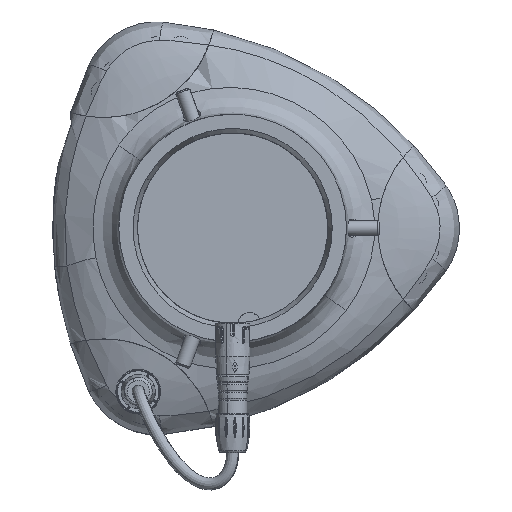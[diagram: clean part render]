
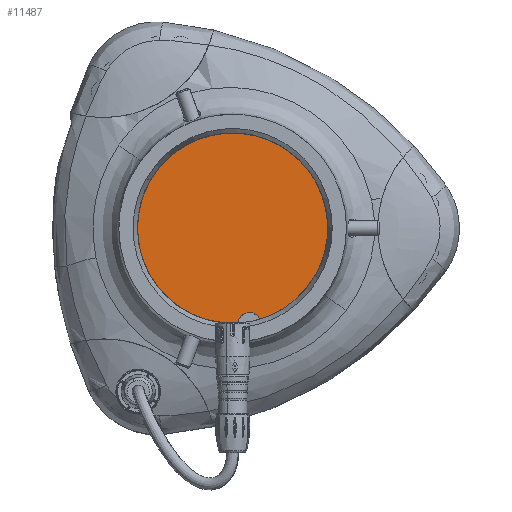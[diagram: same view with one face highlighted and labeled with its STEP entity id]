
A CAD part, top view. The second image highlights one B-rep face of the part: STEP entity #11487.
In plain terms, the highlighted planar face has unit normal (0, 0, 1).
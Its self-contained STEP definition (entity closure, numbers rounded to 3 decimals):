
#22 = ORIENTED_EDGE ( 'NONE', *, *, #37955, .F. ) ;
#396 = EDGE_CURVE ( 'NONE', #29551, #43400, #27626, .T. ) ;
#2772 = CARTESIAN_POINT ( 'NONE',  ( 31.75, -8.507, -18.1 ) ) ;
#3198 = CARTESIAN_POINT ( 'NONE',  ( -31.75, -31.75, -18.1 ) ) ;
#3663 = DIRECTION ( 'NONE',  ( 0., 0., 1. ) ) ;
#4185 = CARTESIAN_POINT ( 'NONE',  ( 2.353, -30.106, -18.1 ) ) ;
#10159 = EDGE_CURVE ( 'NONE', #33607, #29551, #52560, .T. ) ;
#11487 = ADVANCED_FACE ( 'NONE', ( #31766 ), #25936, .T. ) ;
#12892 = CARTESIAN_POINT ( 'NONE',  ( -18.331, 31.75, -18.1 ) ) ;
#13125 = EDGE_CURVE ( 'NONE', #64374, #33607, #26954, .T. ) ;
#13641 = CARTESIAN_POINT ( 'NONE',  ( 2.353, -30.106, -18.1 ) ) ;
#14140 = CARTESIAN_POINT ( 'NONE',  ( 31.75, 31.75, -18.1 ) ) ;
#14829 = CARTESIAN_POINT ( 'NONE',  ( -31.75, 0., -18.1 ) ) ;
#15113 = ORIENTED_EDGE ( 'NONE', *, *, #13125, .F. ) ;
#16049 = CARTESIAN_POINT ( 'NONE',  ( 9.096, -30.419, -18.1 ) ) ;
#18134 = CARTESIAN_POINT ( 'NONE',  ( 1.926, -30.845, -18.1 ) ) ;
#20690 = CARTESIAN_POINT ( 'NONE',  ( -27.496, 15.875, -18.1 ) ) ;
#21190 = CARTESIAN_POINT ( 'NONE',  ( 21.187, -26.804, -18.1 ) ) ;
#24850 =( BOUNDED_CURVE ( )  B_SPLINE_CURVE ( 2, ( #46933, #18134, #30248 ),
 .UNSPECIFIED., .F., .F. ) 
 B_SPLINE_CURVE_WITH_KNOTS ( ( 3, 3 ),
 ( 0., 1. ),
 .UNSPECIFIED. ) 
 CURVE ( )  GEOMETRIC_REPRESENTATION_ITEM ( )  RATIONAL_B_SPLINE_CURVE ( ( 0.868, 0.895, 0.969 ) ) 
 REPRESENTATION_ITEM ( '' )  );
#25774 = CARTESIAN_POINT ( 'NONE',  ( 27.496, -15.875, -18.1 ) ) ;
#25933 = CARTESIAN_POINT ( 'NONE',  ( 5.644, -28.206, -18.1 ) ) ;
#25936 = PLANE ( 'NONE',  #63977 ) ;
#26954 =( BOUNDED_CURVE ( )  B_SPLINE_CURVE ( 2, ( #39887, #45702, #37879, #3198, #14829, #49460, #20690 ),
 .UNSPECIFIED., .F., .F. ) 
 B_SPLINE_CURVE_WITH_KNOTS ( ( 3, 2, 2, 3 ),
 ( 0., 0.03, 0.753, 1. ),
 .UNSPECIFIED. ) 
 CURVE ( )  GEOMETRIC_REPRESENTATION_ITEM ( )  RATIONAL_B_SPLINE_CURVE ( ( 0.977, 0.988, 1., 0.707, 1., 0.9, 0.868 ) ) 
 REPRESENTATION_ITEM ( '' )  );
#27626 =( BOUNDED_CURVE ( )  B_SPLINE_CURVE ( 2, ( #53880, #21190, #63036 ),
 .UNSPECIFIED., .F., .F. ) 
 B_SPLINE_CURVE_WITH_KNOTS ( ( 3, 3 ),
 ( 0., 1. ),
 .UNSPECIFIED. ) 
 CURVE ( )  GEOMETRIC_REPRESENTATION_ITEM ( )  RATIONAL_B_SPLINE_CURVE ( ( 0.868, 0.825, 0.908 ) ) 
 REPRESENTATION_ITEM ( '' )  );
#29551 = VERTEX_POINT ( 'NONE', #56241 ) ;
#30248 = CARTESIAN_POINT ( 'NONE',  ( 1.856, -31.696, -18.1 ) ) ;
#31766 = FACE_OUTER_BOUND ( 'NONE', #64567, .T. ) ;
#32493 = DIRECTION ( 'NONE',  ( 1., 0., 0. ) ) ;
#33538 = ORIENTED_EDGE ( 'NONE', *, *, #54625, .F. ) ;
#33607 = VERTEX_POINT ( 'NONE', #66991 ) ;
#37879 = CARTESIAN_POINT ( 'NONE',  ( 0., -31.75, -18.1 ) ) ;
#37955 = EDGE_CURVE ( 'NONE', #43400, #49477, #48114, .T. ) ;
#39887 = CARTESIAN_POINT ( 'NONE',  ( 1.856, -31.696, -18.1 ) ) ;
#43400 = VERTEX_POINT ( 'NONE', #16049 ) ;
#44047 = ORIENTED_EDGE ( 'NONE', *, *, #396, .F. ) ;
#45702 = CARTESIAN_POINT ( 'NONE',  ( 0.929, -31.75, -18.1 ) ) ;
#46933 = CARTESIAN_POINT ( 'NONE',  ( 2.353, -30.106, -18.1 ) ) ;
#48114 =( BOUNDED_CURVE ( )  B_SPLINE_CURVE ( 2, ( #68073, #50923, #25933, #62273, #4185 ),
 .UNSPECIFIED., .F., .F. ) 
 B_SPLINE_CURVE_WITH_KNOTS ( ( 3, 2, 3 ),
 ( 0., 0.521, 1. ),
 .UNSPECIFIED. ) 
 CURVE ( )  GEOMETRIC_REPRESENTATION_ITEM ( )  RATIONAL_B_SPLINE_CURVE ( ( 0.881, 0.79, 1., 0.807, 0.868 ) ) 
 REPRESENTATION_ITEM ( '' )  );
#48410 = CARTESIAN_POINT ( 'NONE',  ( 1.856, -31.696, -18.1 ) ) ;
#49460 = CARTESIAN_POINT ( 'NONE',  ( -31.75, 8.507, -18.1 ) ) ;
#49477 = VERTEX_POINT ( 'NONE', #13641 ) ;
#50923 = CARTESIAN_POINT ( 'NONE',  ( 8.079, -28.206, -18.1 ) ) ;
#52560 =( BOUNDED_CURVE ( )  B_SPLINE_CURVE ( 2, ( #53068, #12892, #58610, #14140, #65911, #2772, #25774 ),
 .UNSPECIFIED., .F., .F. ) 
 B_SPLINE_CURVE_WITH_KNOTS ( ( 3, 2, 2, 3 ),
 ( 0., 0.329, 0.829, 1. ),
 .UNSPECIFIED. ) 
 CURVE ( )  GEOMETRIC_REPRESENTATION_ITEM ( )  RATIONAL_B_SPLINE_CURVE ( ( 0.868, 0.807, 1., 0.707, 1., 0.9, 0.868 ) ) 
 REPRESENTATION_ITEM ( '' )  );
#53068 = CARTESIAN_POINT ( 'NONE',  ( -27.496, 15.875, -18.1 ) ) ;
#53880 = CARTESIAN_POINT ( 'NONE',  ( 27.496, -15.875, -18.1 ) ) ;
#54625 = EDGE_CURVE ( 'NONE', #49477, #64374, #24850, .T. ) ;
#56241 = CARTESIAN_POINT ( 'NONE',  ( 27.496, -15.875, -18.1 ) ) ;
#58610 = CARTESIAN_POINT ( 'NONE',  ( 0., 31.75, -18.1 ) ) ;
#61240 = CARTESIAN_POINT ( 'NONE',  ( -45.01, -40.423, -18.1 ) ) ;
#62273 = CARTESIAN_POINT ( 'NONE',  ( 3.45, -28.206, -18.1 ) ) ;
#63036 = CARTESIAN_POINT ( 'NONE',  ( 9.096, -30.419, -18.1 ) ) ;
#63977 = AXIS2_PLACEMENT_3D ( 'NONE', #61240, #3663, #32493 ) ;
#64374 = VERTEX_POINT ( 'NONE', #48410 ) ;
#64567 = EDGE_LOOP ( 'NONE', ( #33538, #22, #44047, #73048, #15113 ) ) ;
#65911 = CARTESIAN_POINT ( 'NONE',  ( 31.75, 0., -18.1 ) ) ;
#66991 = CARTESIAN_POINT ( 'NONE',  ( -27.496, 15.875, -18.1 ) ) ;
#68073 = CARTESIAN_POINT ( 'NONE',  ( 9.096, -30.419, -18.1 ) ) ;
#73048 = ORIENTED_EDGE ( 'NONE', *, *, #10159, .F. ) ;
